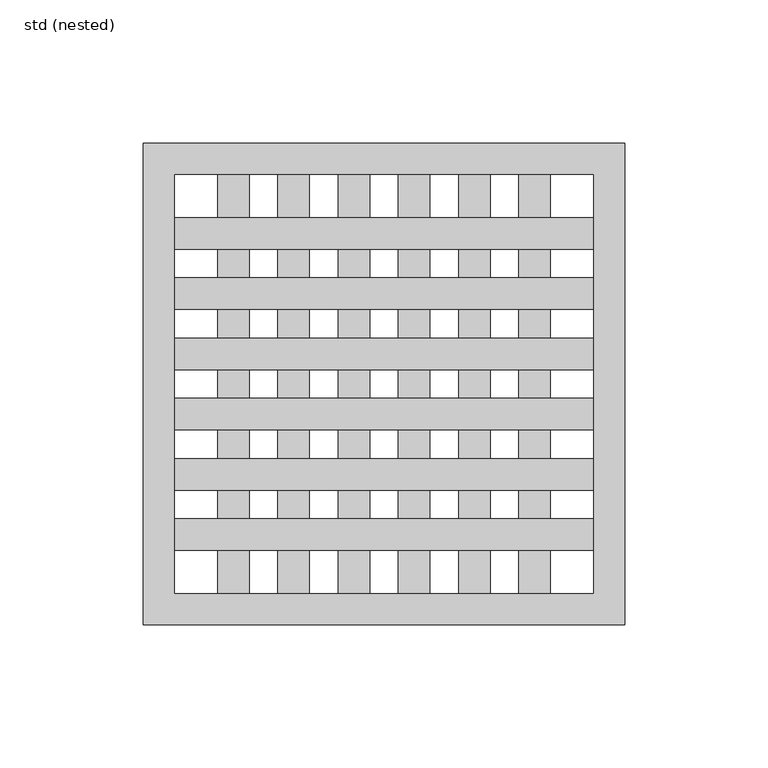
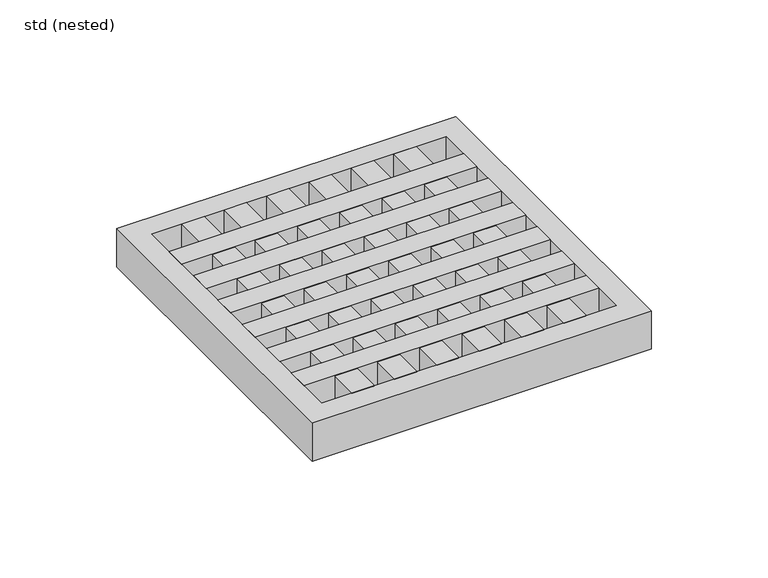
"""IFC4 building model written with IfcOpenShell, lengths in millimetres: sanitary terminal geometry, ZZZ_do not use_PF_ST_UN_square grating for hygienic gully_ACO : std (nested)."""

from ifc_helpers import new_model, si_unit, frame, origin, place, context, project, spatial, polyline, outline, extrude, source, transform, mapped, element, save


def std_nested_245f124b(model_context):
    return source(origin(), model_context, "Body", "SweptSolid", [
        extrude(outline(polyline([(-73.0, -58.0), (-73.0, -47.0), (73.0, -47.0), (73.0, -58.0), (-73.0, -58.0)])), frame((0.0, 0.0, -20.0), z_axis=(0.0, 0.0, 1.0), x_axis=(1.0, 0.0, 0.0)), (0.0, 0.0, 1.0), 20.0),
        extrude(outline(polyline([(-73.0, -37.0), (-73.0, -26.0), (73.0, -26.0), (73.0, -37.0), (-73.0, -37.0)])), frame((0.0, 0.0, -20.0), z_axis=(0.0, 0.0, 1.0), x_axis=(1.0, 0.0, 0.0)), (0.0, 0.0, 1.0), 20.0),
        extrude(outline(polyline([(-73.0, 47.0), (-73.0, 58.0), (73.0, 58.0), (73.0, 47.0), (-73.0, 47.0)])), frame((0.0, 0.0, -20.0), z_axis=(0.0, 0.0, 1.0), x_axis=(1.0, 0.0, 0.0)), (0.0, 0.0, 1.0), 20.0),
        extrude(outline(polyline([(-73.0, 26.0), (-73.0, 37.0), (73.0, 37.0), (73.0, 26.0), (-73.0, 26.0)])), frame((0.0, 0.0, -20.0), z_axis=(0.0, 0.0, 1.0), x_axis=(1.0, 0.0, 0.0)), (0.0, 0.0, 1.0), 20.0),
        extrude(outline(polyline([(-73.0, 5.0), (-73.0, 16.0), (73.0, 16.0), (73.0, 5.0), (-73.0, 5.0)])), frame((0.0, 0.0, -20.0), z_axis=(0.0, 0.0, 1.0), x_axis=(1.0, 0.0, 0.0)), (0.0, 0.0, 1.0), 20.0),
        extrude(outline(polyline([(-73.0, -16.0), (-73.0, -5.0), (73.0, -5.0), (73.0, -16.0), (-73.0, -16.0)])), frame((0.0, 0.0, -20.0), z_axis=(0.0, 0.0, 1.0), x_axis=(1.0, 0.0, 0.0)), (0.0, 0.0, 1.0), 20.0),
        extrude(outline(polyline([(-47.0, -73.0), (-58.0, -73.0), (-58.0, 73.0), (-47.0, 73.0), (-47.0, -73.0)])), frame((0.0, 0.0, -20.0), z_axis=(0.0, 0.0, 1.0), x_axis=(1.0, 0.0, 0.0)), (0.0, 0.0, 1.0), 20.0),
        extrude(outline(polyline([(-26.0, -73.0), (-37.0, -73.0), (-37.0, 73.0), (-26.0, 73.0), (-26.0, -73.0)])), frame((0.0, 0.0, -20.0), z_axis=(0.0, 0.0, 1.0), x_axis=(1.0, 0.0, 0.0)), (0.0, 0.0, 1.0), 20.0),
        extrude(outline(polyline([(58.0, -73.0), (47.0, -73.0), (47.0, 73.0), (58.0, 73.0), (58.0, -73.0)])), frame((0.0, 0.0, -20.0), z_axis=(0.0, 0.0, 1.0), x_axis=(1.0, 0.0, 0.0)), (0.0, 0.0, 1.0), 20.0),
        extrude(outline(polyline([(37.0, -73.0), (26.0, -73.0), (26.0, 73.0), (37.0, 73.0), (37.0, -73.0)])), frame((0.0, 0.0, -20.0), z_axis=(0.0, 0.0, 1.0), x_axis=(1.0, 0.0, 0.0)), (0.0, 0.0, 1.0), 20.0),
        extrude(outline(polyline([(-5.0, -73.0), (-16.0, -73.0), (-16.0, 73.0), (-5.0, 73.0), (-5.0, -73.0)])), frame((0.0, 0.0, -20.0), z_axis=(0.0, 0.0, 1.0), x_axis=(1.0, 0.0, 0.0)), (0.0, 0.0, 1.0), 20.0),
        extrude(outline(polyline([(16.0, -73.0), (5.0, -73.0), (5.0, 73.0), (16.0, 73.0), (16.0, -73.0)])), frame((0.0, 0.0, -20.0), z_axis=(0.0, 0.0, 1.0), x_axis=(1.0, 0.0, 0.0)), (0.0, 0.0, 1.0), 20.0),
        extrude(outline(polyline([(84.0, 84.0), (84.0, -84.0), (-84.0, -84.0), (-84.0, 84.0), (84.0, 84.0)]), holes=[polyline([(73.0, 73.0), (-73.0, 73.0), (-73.0, -73.0), (73.0, -73.0), (73.0, 73.0)])]), frame((0.0, 0.0, -20.0), z_axis=(0.0, 0.0, 1.0), x_axis=(1.0, 0.0, 0.0)), (0.0, 0.0, 1.0), 20.0),
    ])


if __name__ == "__main__":
    model = new_model("IFC4")
    model_context = context("Model", 3, world=origin())
    ifc_project = project(units=[si_unit("LENGTHUNIT", "METRE", prefix="MILLI")], contexts=[model_context])
    site = spatial("IfcSite", under=ifc_project)
    building = spatial("IfcBuilding", under=site)
    placement = place(None, origin())
    std_nested_shape = std_nested_245f124b(model_context)
    element("IfcSanitaryTerminal", 1, ObjectType="ZZZ_do not use_PF_ST_UN_square grating for hygienic gully_ACO : std (nested)", at=placement, inside=building, context=model_context, shape_type="MappedRepresentation", body=[
        mapped(std_nested_shape, transform((0.0, 0.0, 0.0), x_axis=(1.0, 0.0, 0.0), y_axis=(0.0, 1.0, 0.0), z_axis=(0.0, 0.0, 1.0))),
    ])
    save(model, "model.ifc")
